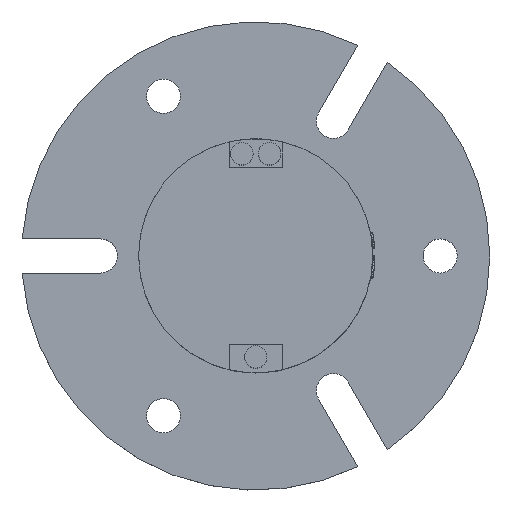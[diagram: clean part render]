
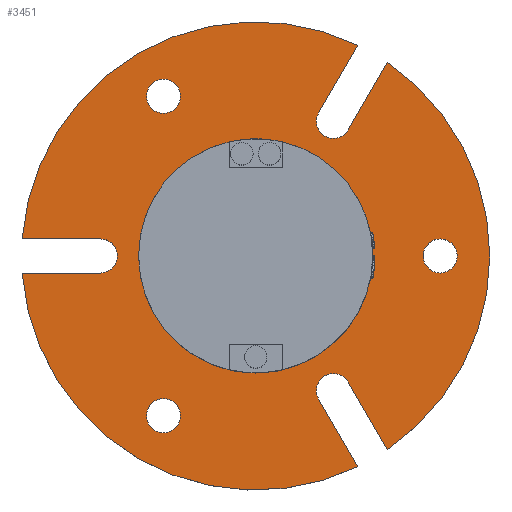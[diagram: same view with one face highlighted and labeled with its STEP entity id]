
A CAD part, top view. The second image highlights one B-rep face of the part: STEP entity #3451.
In plain terms, the highlighted planar face has unit normal (0, 0, 1).
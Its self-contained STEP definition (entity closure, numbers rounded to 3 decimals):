
#3451=ADVANCED_FACE('',(#5151,#5152,#5153,#5154,#5155),#4177,.T.);
#4177=PLANE('',#13470);
#4389=LINE('',#15334,#4545);
#4390=LINE('',#15338,#4546);
#4391=LINE('',#15342,#4547);
#4392=LINE('',#15346,#4548);
#4393=LINE('',#15350,#4549);
#4394=LINE('',#15354,#4550);
#4545=VECTOR('',#13890,1.);
#4546=VECTOR('',#13893,1.);
#4547=VECTOR('',#13896,1.);
#4548=VECTOR('',#13899,1.);
#4549=VECTOR('',#13902,1.);
#4550=VECTOR('',#13905,1.);
#5151=FACE_BOUND('',#5256,.T.);
#5152=FACE_BOUND('',#5257,.T.);
#5153=FACE_BOUND('',#5258,.T.);
#5154=FACE_BOUND('',#5259,.T.);
#5155=FACE_BOUND('',#5260,.T.);
#5256=EDGE_LOOP('',(#6056));
#5257=EDGE_LOOP('',(#6057));
#5258=EDGE_LOOP('',(#6058));
#5259=EDGE_LOOP('',(#6059));
#5260=EDGE_LOOP('',(#6060,#6061,#6062,#6063,#6064,#6065,#6066,#6067,#6068,
#6069,#6070,#6071));
#6056=ORIENTED_EDGE('',*,*,#11379,.T.);
#6057=ORIENTED_EDGE('',*,*,#11380,.T.);
#6058=ORIENTED_EDGE('',*,*,#11381,.T.);
#6059=ORIENTED_EDGE('',*,*,#11382,.F.);
#6060=ORIENTED_EDGE('',*,*,#11383,.F.);
#6061=ORIENTED_EDGE('',*,*,#11384,.T.);
#6062=ORIENTED_EDGE('',*,*,#11385,.T.);
#6063=ORIENTED_EDGE('',*,*,#11386,.T.);
#6064=ORIENTED_EDGE('',*,*,#11387,.F.);
#6065=ORIENTED_EDGE('',*,*,#11388,.T.);
#6066=ORIENTED_EDGE('',*,*,#11389,.T.);
#6067=ORIENTED_EDGE('',*,*,#11390,.T.);
#6068=ORIENTED_EDGE('',*,*,#11391,.F.);
#6069=ORIENTED_EDGE('',*,*,#11392,.T.);
#6070=ORIENTED_EDGE('',*,*,#11393,.T.);
#6071=ORIENTED_EDGE('',*,*,#11394,.T.);
#10042=VERTEX_POINT('',#15324);
#10043=VERTEX_POINT('',#15326);
#10044=VERTEX_POINT('',#15328);
#10045=VERTEX_POINT('',#15330);
#10046=VERTEX_POINT('',#15332);
#10047=VERTEX_POINT('',#15333);
#10048=VERTEX_POINT('',#15335);
#10049=VERTEX_POINT('',#15337);
#10050=VERTEX_POINT('',#15339);
#10051=VERTEX_POINT('',#15341);
#10052=VERTEX_POINT('',#15343);
#10053=VERTEX_POINT('',#15345);
#10054=VERTEX_POINT('',#15347);
#10055=VERTEX_POINT('',#15349);
#10056=VERTEX_POINT('',#15351);
#10057=VERTEX_POINT('',#15353);
#11379=EDGE_CURVE('',#10042,#10042,#13372,.T.);
#11380=EDGE_CURVE('',#10043,#10043,#13373,.T.);
#11381=EDGE_CURVE('',#10044,#10044,#13374,.T.);
#11382=EDGE_CURVE('',#10045,#10045,#13375,.T.);
#11383=EDGE_CURVE('',#10046,#10047,#13376,.T.);
#11384=EDGE_CURVE('',#10046,#10048,#4389,.T.);
#11385=EDGE_CURVE('',#10048,#10049,#13377,.T.);
#11386=EDGE_CURVE('',#10049,#10050,#4390,.T.);
#11387=EDGE_CURVE('',#10051,#10050,#13378,.T.);
#11388=EDGE_CURVE('',#10051,#10052,#4391,.T.);
#11389=EDGE_CURVE('',#10052,#10053,#13379,.T.);
#11390=EDGE_CURVE('',#10053,#10054,#4392,.T.);
#11391=EDGE_CURVE('',#10055,#10054,#13380,.T.);
#11392=EDGE_CURVE('',#10055,#10056,#4393,.T.);
#11393=EDGE_CURVE('',#10056,#10057,#13381,.T.);
#11394=EDGE_CURVE('',#10057,#10047,#4394,.T.);
#13372=CIRCLE('',#13460,1.6);
#13373=CIRCLE('',#13461,1.6);
#13374=CIRCLE('',#13462,1.6);
#13375=CIRCLE('',#13463,11.);
#13376=CIRCLE('',#13464,22.);
#13377=CIRCLE('',#13465,1.6);
#13378=CIRCLE('',#13466,22.);
#13379=CIRCLE('',#13467,1.6);
#13380=CIRCLE('',#13468,22.);
#13381=CIRCLE('',#13469,1.6);
#13460=AXIS2_PLACEMENT_3D('',#15323,#13880,#13881);
#13461=AXIS2_PLACEMENT_3D('',#15325,#13882,#13883);
#13462=AXIS2_PLACEMENT_3D('',#15327,#13884,#13885);
#13463=AXIS2_PLACEMENT_3D('',#15329,#13886,#13887);
#13464=AXIS2_PLACEMENT_3D('',#15331,#13888,#13889);
#13465=AXIS2_PLACEMENT_3D('',#15336,#13891,#13892);
#13466=AXIS2_PLACEMENT_3D('',#15340,#13894,#13895);
#13467=AXIS2_PLACEMENT_3D('',#15344,#13897,#13898);
#13468=AXIS2_PLACEMENT_3D('',#15348,#13900,#13901);
#13469=AXIS2_PLACEMENT_3D('',#15352,#13903,#13904);
#13470=AXIS2_PLACEMENT_3D('',#15355,#13906,#13907);
#13880=DIRECTION('',(0.,0.,-1.));
#13881=DIRECTION('',(1.,0.,0.));
#13882=DIRECTION('',(0.,0.,-1.));
#13883=DIRECTION('',(-0.5,0.866,0.));
#13884=DIRECTION('',(0.,0.,-1.));
#13885=DIRECTION('',(-0.5,-0.866,0.));
#13886=DIRECTION('',(0.,0.,1.));
#13887=DIRECTION('',(1.,0.,0.));
#13888=DIRECTION('',(0.,0.,-1.));
#13889=DIRECTION('',(1.,0.,0.));
#13890=DIRECTION('',(1.,0.,0.));
#13891=DIRECTION('',(0.,0.,-1.));
#13892=DIRECTION('',(1.,0.,0.));
#13893=DIRECTION('',(-1.,0.,0.));
#13894=DIRECTION('',(0.,0.,-1.));
#13895=DIRECTION('',(1.,0.,0.));
#13896=DIRECTION('',(-0.5,0.866,0.));
#13897=DIRECTION('',(0.,0.,-1.));
#13898=DIRECTION('',(-0.5,0.866,0.));
#13899=DIRECTION('',(0.5,-0.866,0.));
#13900=DIRECTION('',(0.,0.,-1.));
#13901=DIRECTION('',(1.,0.,0.));
#13902=DIRECTION('',(-0.5,-0.866,0.));
#13903=DIRECTION('',(0.,0.,-1.));
#13904=DIRECTION('',(-0.5,-0.866,0.));
#13905=DIRECTION('',(0.5,0.866,0.));
#13906=DIRECTION('',(0.,0.,1.));
#13907=DIRECTION('',(1.,0.,0.));
#15323=CARTESIAN_POINT('',(17.33,0.,2.5));
#15324=CARTESIAN_POINT('',(18.93,0.,2.5));
#15325=CARTESIAN_POINT('',(-8.665,15.008,2.5));
#15326=CARTESIAN_POINT('',(-9.465,16.394,2.5));
#15327=CARTESIAN_POINT('',(-8.665,-15.008,2.5));
#15328=CARTESIAN_POINT('',(-9.465,-16.394,2.5));
#15329=CARTESIAN_POINT('',(0.,0.,2.5));
#15330=CARTESIAN_POINT('',(11.,0.,2.5));
#15331=CARTESIAN_POINT('',(0.,0.,2.5));
#15332=CARTESIAN_POINT('',(-21.942,1.6,2.5));
#15333=CARTESIAN_POINT('',(9.585,19.802,2.5));
#15334=CARTESIAN_POINT('',(-23.1,1.6,2.5));
#15335=CARTESIAN_POINT('',(-14.6,1.6,2.5));
#15336=CARTESIAN_POINT('',(-14.6,0.,2.5));
#15337=CARTESIAN_POINT('',(-14.6,-1.6,2.5));
#15338=CARTESIAN_POINT('',(-23.1,-1.6,2.5));
#15339=CARTESIAN_POINT('',(-21.942,-1.6,2.5));
#15340=CARTESIAN_POINT('',(0.,0.,2.5));
#15341=CARTESIAN_POINT('',(9.585,-19.802,2.5));
#15342=CARTESIAN_POINT('',(10.164,-20.805,2.5));
#15343=CARTESIAN_POINT('',(5.914,-13.444,2.5));
#15344=CARTESIAN_POINT('',(7.3,-12.644,2.5));
#15345=CARTESIAN_POINT('',(8.686,-11.844,2.5));
#15346=CARTESIAN_POINT('',(12.936,-19.205,2.5));
#15347=CARTESIAN_POINT('',(12.357,-18.202,2.5));
#15348=CARTESIAN_POINT('',(0.,0.,2.5));
#15349=CARTESIAN_POINT('',(12.357,18.202,2.5));
#15350=CARTESIAN_POINT('',(12.936,19.205,2.5));
#15351=CARTESIAN_POINT('',(8.686,11.844,2.5));
#15352=CARTESIAN_POINT('',(7.3,12.644,2.5));
#15353=CARTESIAN_POINT('',(5.914,13.444,2.5));
#15354=CARTESIAN_POINT('',(10.164,20.805,2.5));
#15355=CARTESIAN_POINT('',(0.,0.,2.5));
